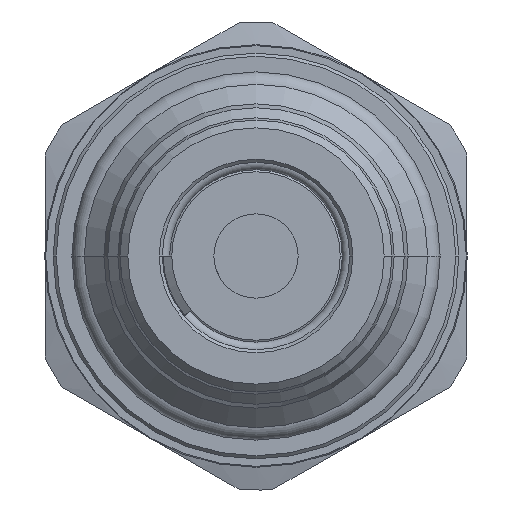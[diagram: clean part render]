
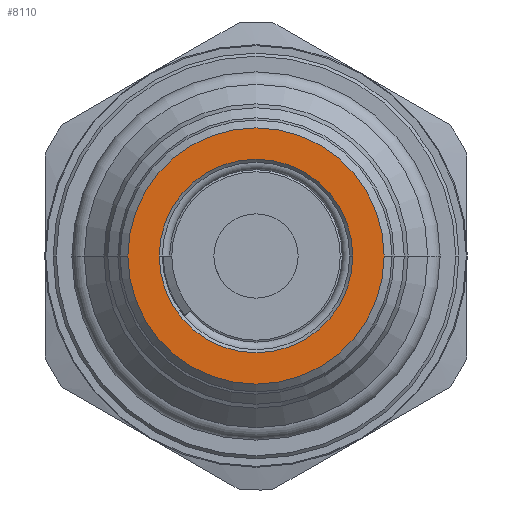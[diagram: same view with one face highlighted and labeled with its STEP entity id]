
A CAD part, left-side view. The second image highlights one B-rep face of the part: STEP entity #8110.
In plain terms, the highlighted planar face has unit normal (-1, 0, 0).
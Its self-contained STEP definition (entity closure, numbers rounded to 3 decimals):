
#3642=CARTESIAN_POINT('',(-47.,0.,0.));
#3643=DIRECTION('',(-1.,0.,0.));
#3644=DIRECTION('',(0.,1.,0.));
#3645=AXIS2_PLACEMENT_3D('',#3642,#3643,#3644);
#3650=CARTESIAN_POINT('',(-47.,0.,0.));
#3651=DIRECTION('',(1.,0.,0.));
#3652=DIRECTION('',(0.,1.,0.));
#3653=AXIS2_PLACEMENT_3D('',#3650,#3651,#3652);
#3658=CARTESIAN_POINT('',(-47.,0.,0.));
#3659=DIRECTION('',(1.,0.,0.));
#3660=DIRECTION('',(0.,-1.,0.));
#3661=AXIS2_PLACEMENT_3D('',#3658,#3659,#3660);
#3666=CARTESIAN_POINT('',(-47.,0.,0.));
#3667=DIRECTION('',(1.,0.,0.));
#3668=DIRECTION('',(0.,1.,0.));
#3669=AXIS2_PLACEMENT_3D('',#3666,#3667,#3668);
#5511=CARTESIAN_POINT('',(-47.,8.21,0.));
#5513=VERTEX_POINT('',#5511);
#5534=CARTESIAN_POINT('',(-47.,-8.21,0.));
#5535=VERTEX_POINT('',#5534);
#5604=CARTESIAN_POINT('',(-47.,-6.2,0.));
#5605=CARTESIAN_POINT('',(-47.,6.2,0.));
#5606=VERTEX_POINT('',#5604);
#5607=VERTEX_POINT('',#5605);
#8095=CARTESIAN_POINT('',(-47.,0.,0.));
#8096=DIRECTION('',(1.,0.,0.));
#8097=DIRECTION('',(0.,-1.,0.));
#8098=AXIS2_PLACEMENT_3D('',#8095,#8096,#8097);
#8099=PLANE('',#8098);
#8100=ORIENTED_EDGE('',*,*,#8074,.F.);
#8101=ORIENTED_EDGE('',*,*,#8090,.T.);
#8102=EDGE_LOOP('',(#8100,#8101));
#8103=FACE_OUTER_BOUND('',#8102,.F.);
#8105=ORIENTED_EDGE('',*,*,#8104,.F.);
#8107=ORIENTED_EDGE('',*,*,#8106,.F.);
#8108=EDGE_LOOP('',(#8105,#8107));
#8109=FACE_BOUND('',#8108,.F.);
#3646=CIRCLE('',#3645,8.21);
#3654=CIRCLE('',#3653,8.21);
#3662=CIRCLE('',#3661,6.2);
#3670=CIRCLE('',#3669,6.2);
#8074=EDGE_CURVE('',#5513,#5535,#3646,.T.);
#8090=EDGE_CURVE('',#5513,#5535,#3654,.T.);
#8104=EDGE_CURVE('',#5606,#5607,#3662,.T.);
#8106=EDGE_CURVE('',#5607,#5606,#3670,.T.);
#8110=ADVANCED_FACE('',(#8103,#8109),#8099,.F.);
